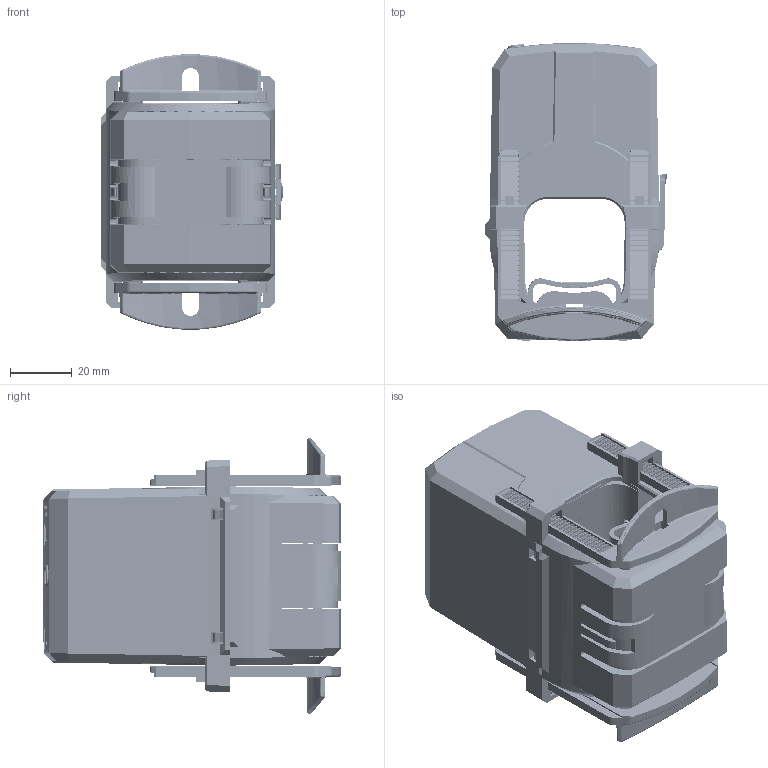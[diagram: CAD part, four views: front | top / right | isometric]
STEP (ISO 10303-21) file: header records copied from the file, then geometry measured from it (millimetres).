
FILE_DESCRIPTION (( 'STEP AP214' ), '1' );
FILE_NAME ('KBR32-Wandler_kpl_03.STEP', '2018-08-01T07:40:56', ( '' ), ( '' ), 'SwSTEP 2.0', 'SolidWorks 2016', '' );
FILE_SCHEMA (( 'AUTOMOTIVE_DESIGN' ));
Length unit declared in the file: millimetre
Products named in the file (10): KBR32_Gehäuse-UT_03; KBR32_Gehäuse-OT_03; KBR32-Wandler_kpl_03; KBR32_Fixierspange_2.8230; KBR32_Innenschale_03; KBR32_Kern_kpl; KBR32_Platine; KBR32_Wicklung; KBR32_Kernabdeckung_2.8232_01; KBR32_Kernhälfte
Assembly tree (12 placements, depth 3):
  KBR32-Wandler_kpl_03
    KBR32_Gehäuse-OT_03
    KBR32_Gehäuse-UT_03
    KBR32_Kern_kpl
      KBR32_Kernhälfte  x2
      KBR32_Kernabdeckung_2.8232_01  x2
      KBR32_Wicklung
      KBR32_Platine
    KBR32_Innenschale_03
    KBR32_Fixierspange_2.8230  x2
Bounding box: 59.19 x 96.4 x 89.1 mm (x, y, z)
Volume: 127761.9 mm3; surface area: 244854.5 mm2
Topology: 48 solids, 48 shells, 12775 faces, 28635 edges, 15983 vertices
Faces by surface type: cylinder 6121, torus 4582, plane 1742, bspline 241, cone 77, sphere 12
Entity records: 343191 total; most frequent: CARTESIAN_POINT 68151, DIRECTION 65914, ORIENTED_EDGE 53740, AXIS2_PLACEMENT_3D 28285, EDGE_CURVE 26870, CIRCLE 16307, VERTEX_POINT 14837, EDGE_LOOP 12265
